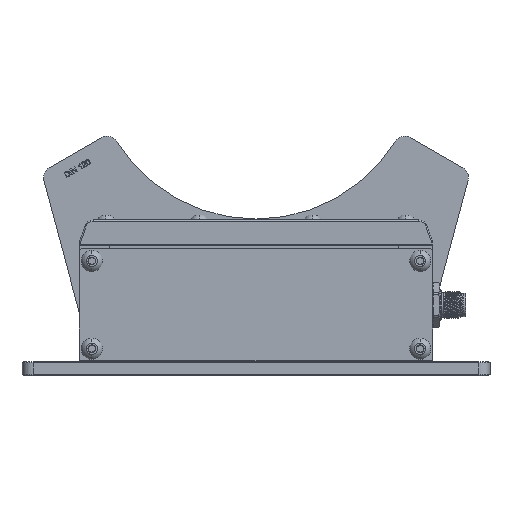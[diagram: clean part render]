
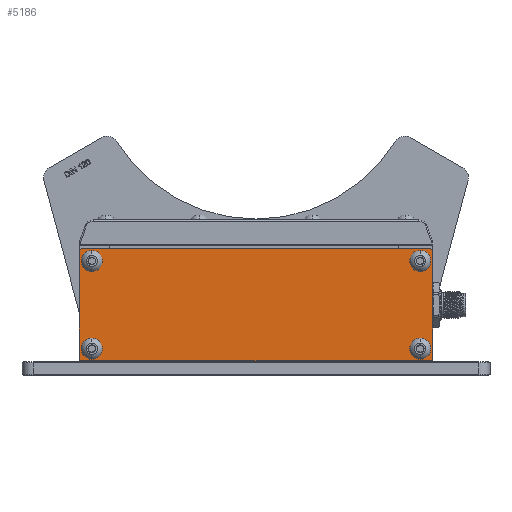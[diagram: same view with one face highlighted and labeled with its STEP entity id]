
A CAD part, top view. The second image highlights one B-rep face of the part: STEP entity #5186.
In plain terms, the highlighted planar face has unit normal (0, 0, 1).
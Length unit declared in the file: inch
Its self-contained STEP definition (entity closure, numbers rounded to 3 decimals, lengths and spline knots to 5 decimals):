
#114 = DIRECTION ( 'NONE',  ( 1., 0., 0. ) ) ;
#421 = EDGE_CURVE ( 'NONE', #24511, #6232, #19980, .T. ) ;
#441 = CIRCLE ( 'NONE', #22469, 0.18701 ) ;
#554 = VERTEX_POINT ( 'NONE', #16876 ) ;
#581 = VECTOR ( 'NONE', #22164, 39.37008 ) ;
#1099 = EDGE_CURVE ( 'NONE', #29400, #8732, #18450, .T. ) ;
#1487 = FACE_BOUND ( 'NONE', #1635, .T. ) ;
#1635 = EDGE_LOOP ( 'NONE', ( #8312, #23819 ) ) ;
#1791 = EDGE_CURVE ( 'NONE', #3939, #29400, #1967, .T. ) ;
#1804 = DIRECTION ( 'NONE',  ( 0., 0., 1. ) ) ;
#1967 = CIRCLE ( 'NONE', #28187, 0.05 ) ;
#2026 = VERTEX_POINT ( 'NONE', #24709 ) ;
#2478 = DIRECTION ( 'NONE',  ( 0., -1., 0. ) ) ;
#2886 = ORIENTED_EDGE ( 'NONE', *, *, #8107, .T. ) ;
#3184 = VERTEX_POINT ( 'NONE', #13666 ) ;
#3369 = EDGE_CURVE ( 'NONE', #6328, #3939, #4914, .T. ) ;
#3481 = CARTESIAN_POINT ( 'NONE',  ( 3.075, -5.40902, 1.5758 ) ) ;
#3671 = ORIENTED_EDGE ( 'NONE', *, *, #28324, .F. ) ;
#3800 = CARTESIAN_POINT ( 'NONE',  ( 2.9, -3.64402, 1.5758 ) ) ;
#3830 = CIRCLE ( 'NONE', #14389, 0.18701 ) ;
#3835 = DIRECTION ( 'NONE',  ( 0., 0., 1. ) ) ;
#3939 = VERTEX_POINT ( 'NONE', #3481 ) ;
#4022 = AXIS2_PLACEMENT_3D ( 'NONE', #28744, #14419, #114 ) ;
#4202 = DIRECTION ( 'NONE',  ( 1., 0., 0. ) ) ;
#4665 = CARTESIAN_POINT ( 'NONE',  ( 3.075, -5.35902, 1.5758 ) ) ;
#4761 = EDGE_LOOP ( 'NONE', ( #2886, #22849, #6251, #19996, #9484, #20368, #18753, #14751 ) ) ;
#4894 = AXIS2_PLACEMENT_3D ( 'NONE', #9583, #7698, #24109 ) ;
#4896 = DIRECTION ( 'NONE',  ( 0., 0., 1. ) ) ;
#4905 = CARTESIAN_POINT ( 'NONE',  ( 3.125, -3.42902, 1.5758 ) ) ;
#4914 = LINE ( 'NONE', #18561, #23261 ) ;
#5186 = ADVANCED_FACE ( 'NONE', ( #26922, #14180, #7833, #1487, #26161 ), #5876, .T. ) ;
#5225 = AXIS2_PLACEMENT_3D ( 'NONE', #24152, #9815, #26541 ) ;
#5424 = AXIS2_PLACEMENT_3D ( 'NONE', #3800, #20550, #6221 ) ;
#5431 = CARTESIAN_POINT ( 'NONE',  ( -3.125, -3.42902, 1.5758 ) ) ;
#5462 = DIRECTION ( 'NONE',  ( 0., 0., 1. ) ) ;
#5876 = PLANE ( 'NONE',  #7031 ) ;
#5963 = CARTESIAN_POINT ( 'NONE',  ( 0., -4.41902, 1.5758 ) ) ;
#6221 = DIRECTION ( 'NONE',  ( 1., 0., 0. ) ) ;
#6232 = VERTEX_POINT ( 'NONE', #11012 ) ;
#6251 = ORIENTED_EDGE ( 'NONE', *, *, #3369, .T. ) ;
#6328 = VERTEX_POINT ( 'NONE', #22303 ) ;
#7031 = AXIS2_PLACEMENT_3D ( 'NONE', #5963, #22713, #8381 ) ;
#7065 = DIRECTION ( 'NONE',  ( 1., 0., 0. ) ) ;
#7614 = EDGE_CURVE ( 'NONE', #19588, #16449, #25025, .T. ) ;
#7698 = DIRECTION ( 'NONE',  ( 0., 0., 1. ) ) ;
#7746 = EDGE_CURVE ( 'NONE', #8732, #9499, #22032, .T. ) ;
#7833 = FACE_BOUND ( 'NONE', #26800, .T. ) ;
#8096 = AXIS2_PLACEMENT_3D ( 'NONE', #16098, #1804, #18548 ) ;
#8107 = EDGE_CURVE ( 'NONE', #29330, #3184, #20902, .T. ) ;
#8269 = CIRCLE ( 'NONE', #5225, 0.05 ) ;
#8300 = ORIENTED_EDGE ( 'NONE', *, *, #9260, .F. ) ;
#8312 = ORIENTED_EDGE ( 'NONE', *, *, #421, .F. ) ;
#8381 = DIRECTION ( 'NONE',  ( 1., 0., 0. ) ) ;
#8732 = VERTEX_POINT ( 'NONE', #15621 ) ;
#8907 = DIRECTION ( 'NONE',  ( 0., 0., 1. ) ) ;
#8931 = CARTESIAN_POINT ( 'NONE',  ( 2.71299, -3.64402, 1.5758 ) ) ;
#9181 = DIRECTION ( 'NONE',  ( 0., 0., 1. ) ) ;
#9260 = EDGE_CURVE ( 'NONE', #2026, #15066, #17456, .T. ) ;
#9458 = CARTESIAN_POINT ( 'NONE',  ( -3.08701, -3.64402, 1.5758 ) ) ;
#9484 = ORIENTED_EDGE ( 'NONE', *, *, #1099, .T. ) ;
#9491 = ORIENTED_EDGE ( 'NONE', *, *, #24190, .F. ) ;
#9499 = VERTEX_POINT ( 'NONE', #13033 ) ;
#9583 = CARTESIAN_POINT ( 'NONE',  ( 2.9, -5.19402, 1.5758 ) ) ;
#9815 = DIRECTION ( 'NONE',  ( 0., 0., 1. ) ) ;
#10091 = DIRECTION ( 'NONE',  ( 0., 0., 1. ) ) ;
#10114 = EDGE_CURVE ( 'NONE', #26988, #554, #14425, .T. ) ;
#10513 = EDGE_CURVE ( 'NONE', #9499, #28285, #24516, .T. ) ;
#11012 = CARTESIAN_POINT ( 'NONE',  ( 2.71299, -5.19402, 1.5758 ) ) ;
#11340 = CIRCLE ( 'NONE', #8096, 0.05 ) ;
#11807 = CARTESIAN_POINT ( 'NONE',  ( 3.125, -5.35902, 1.5758 ) ) ;
#12291 = EDGE_CURVE ( 'NONE', #28285, #29330, #11340, .T. ) ;
#12883 = CARTESIAN_POINT ( 'NONE',  ( -3.08701, -5.19402, 1.5758 ) ) ;
#13033 = CARTESIAN_POINT ( 'NONE',  ( 3.075, -3.42902, 1.5758 ) ) ;
#13666 = CARTESIAN_POINT ( 'NONE',  ( -3.125, -5.35902, 1.5758 ) ) ;
#14069 = AXIS2_PLACEMENT_3D ( 'NONE', #23502, #9181, #25901 ) ;
#14180 = FACE_BOUND ( 'NONE', #17089, .T. ) ;
#14367 = CARTESIAN_POINT ( 'NONE',  ( -3.125, -3.42902, 1.5758 ) ) ;
#14389 = AXIS2_PLACEMENT_3D ( 'NONE', #24420, #10091, #26849 ) ;
#14419 = DIRECTION ( 'NONE',  ( 0., 0., 1. ) ) ;
#14425 = CIRCLE ( 'NONE', #5424, 0.18701 ) ;
#14751 = ORIENTED_EDGE ( 'NONE', *, *, #12291, .T. ) ;
#15066 = VERTEX_POINT ( 'NONE', #9458 ) ;
#15621 = CARTESIAN_POINT ( 'NONE',  ( 3.125, -3.47902, 1.5758 ) ) ;
#15848 = EDGE_CURVE ( 'NONE', #15066, #2026, #441, .T. ) ;
#16098 = CARTESIAN_POINT ( 'NONE',  ( -3.075, -3.47902, 1.5758 ) ) ;
#16345 = EDGE_CURVE ( 'NONE', #3184, #6328, #8269, .T. ) ;
#16449 = VERTEX_POINT ( 'NONE', #24561 ) ;
#16600 = AXIS2_PLACEMENT_3D ( 'NONE', #18174, #3835, #20577 ) ;
#16876 = CARTESIAN_POINT ( 'NONE',  ( 3.08701, -3.64402, 1.5758 ) ) ;
#17089 = EDGE_LOOP ( 'NONE', ( #9491, #21769 ) ) ;
#17456 = CIRCLE ( 'NONE', #4022, 0.18701 ) ;
#18174 = CARTESIAN_POINT ( 'NONE',  ( 3.075, -3.47902, 1.5758 ) ) ;
#18450 = LINE ( 'NONE', #4905, #30406 ) ;
#18548 = DIRECTION ( 'NONE',  ( 1., 0., 0. ) ) ;
#18561 = CARTESIAN_POINT ( 'NONE',  ( -3.125, -5.40902, 1.5758 ) ) ;
#18753 = ORIENTED_EDGE ( 'NONE', *, *, #10513, .T. ) ;
#19254 = CARTESIAN_POINT ( 'NONE',  ( -2.9, -5.19402, 1.5758 ) ) ;
#19316 = CIRCLE ( 'NONE', #19660, 0.18701 ) ;
#19588 = VERTEX_POINT ( 'NONE', #12883 ) ;
#19660 = AXIS2_PLACEMENT_3D ( 'NONE', #23225, #8907, #25652 ) ;
#19796 = CARTESIAN_POINT ( 'NONE',  ( -2.9, -3.64402, 1.5758 ) ) ;
#19980 = CIRCLE ( 'NONE', #4894, 0.18701 ) ;
#19996 = ORIENTED_EDGE ( 'NONE', *, *, #1791, .T. ) ;
#20368 = ORIENTED_EDGE ( 'NONE', *, *, #7746, .T. ) ;
#20550 = DIRECTION ( 'NONE',  ( 0., 0., 1. ) ) ;
#20577 = DIRECTION ( 'NONE',  ( 1., 0., 0. ) ) ;
#20902 = LINE ( 'NONE', #14367, #27991 ) ;
#21392 = DIRECTION ( 'NONE',  ( 0., 0., 1. ) ) ;
#21647 = DIRECTION ( 'NONE',  ( 1., 0., 0. ) ) ;
#21656 = DIRECTION ( 'NONE',  ( 0., 1., 0. ) ) ;
#21769 = ORIENTED_EDGE ( 'NONE', *, *, #7614, .F. ) ;
#21848 = AXIS2_PLACEMENT_3D ( 'NONE', #19254, #4896, #21647 ) ;
#22032 = CIRCLE ( 'NONE', #16600, 0.05 ) ;
#22164 = DIRECTION ( 'NONE',  ( -1., 0., 0. ) ) ;
#22201 = DIRECTION ( 'NONE',  ( 1., 0., 0. ) ) ;
#22303 = CARTESIAN_POINT ( 'NONE',  ( -3.075, -5.40902, 1.5758 ) ) ;
#22469 = AXIS2_PLACEMENT_3D ( 'NONE', #19796, #5462, #22201 ) ;
#22713 = DIRECTION ( 'NONE',  ( 0., 0., 1. ) ) ;
#22849 = ORIENTED_EDGE ( 'NONE', *, *, #16345, .T. ) ;
#23225 = CARTESIAN_POINT ( 'NONE',  ( 2.9, -5.19402, 1.5758 ) ) ;
#23261 = VECTOR ( 'NONE', #4202, 39.37008 ) ;
#23502 = CARTESIAN_POINT ( 'NONE',  ( -2.9, -5.19402, 1.5758 ) ) ;
#23520 = CARTESIAN_POINT ( 'NONE',  ( -3.125, -3.47902, 1.5758 ) ) ;
#23677 = CIRCLE ( 'NONE', #21848, 0.18701 ) ;
#23819 = ORIENTED_EDGE ( 'NONE', *, *, #24522, .F. ) ;
#24109 = DIRECTION ( 'NONE',  ( 1., 0., 0. ) ) ;
#24152 = CARTESIAN_POINT ( 'NONE',  ( -3.075, -5.35902, 1.5758 ) ) ;
#24190 = EDGE_CURVE ( 'NONE', #16449, #19588, #23677, .T. ) ;
#24420 = CARTESIAN_POINT ( 'NONE',  ( 2.9, -3.64402, 1.5758 ) ) ;
#24511 = VERTEX_POINT ( 'NONE', #30339 ) ;
#24516 = LINE ( 'NONE', #5431, #581 ) ;
#24522 = EDGE_CURVE ( 'NONE', #6232, #24511, #19316, .T. ) ;
#24561 = CARTESIAN_POINT ( 'NONE',  ( -2.71299, -5.19402, 1.5758 ) ) ;
#24709 = CARTESIAN_POINT ( 'NONE',  ( -2.71299, -3.64402, 1.5758 ) ) ;
#25025 = CIRCLE ( 'NONE', #14069, 0.18701 ) ;
#25652 = DIRECTION ( 'NONE',  ( 1., 0., 0. ) ) ;
#25901 = DIRECTION ( 'NONE',  ( 1., 0., 0. ) ) ;
#26161 = FACE_BOUND ( 'NONE', #26931, .T. ) ;
#26433 = ORIENTED_EDGE ( 'NONE', *, *, #10114, .F. ) ;
#26541 = DIRECTION ( 'NONE',  ( 1., 0., 0. ) ) ;
#26741 = CARTESIAN_POINT ( 'NONE',  ( -3.075, -3.42902, 1.5758 ) ) ;
#26800 = EDGE_LOOP ( 'NONE', ( #8300, #28305 ) ) ;
#26849 = DIRECTION ( 'NONE',  ( 1., 0., 0. ) ) ;
#26922 = FACE_OUTER_BOUND ( 'NONE', #4761, .T. ) ;
#26931 = EDGE_LOOP ( 'NONE', ( #3671, #26433 ) ) ;
#26988 = VERTEX_POINT ( 'NONE', #8931 ) ;
#27991 = VECTOR ( 'NONE', #2478, 39.37008 ) ;
#28187 = AXIS2_PLACEMENT_3D ( 'NONE', #4665, #21392, #7065 ) ;
#28285 = VERTEX_POINT ( 'NONE', #26741 ) ;
#28305 = ORIENTED_EDGE ( 'NONE', *, *, #15848, .F. ) ;
#28324 = EDGE_CURVE ( 'NONE', #554, #26988, #3830, .T. ) ;
#28744 = CARTESIAN_POINT ( 'NONE',  ( -2.9, -3.64402, 1.5758 ) ) ;
#29330 = VERTEX_POINT ( 'NONE', #23520 ) ;
#29400 = VERTEX_POINT ( 'NONE', #11807 ) ;
#30339 = CARTESIAN_POINT ( 'NONE',  ( 3.08701, -5.19402, 1.5758 ) ) ;
#30406 = VECTOR ( 'NONE', #21656, 39.37008 ) ;
